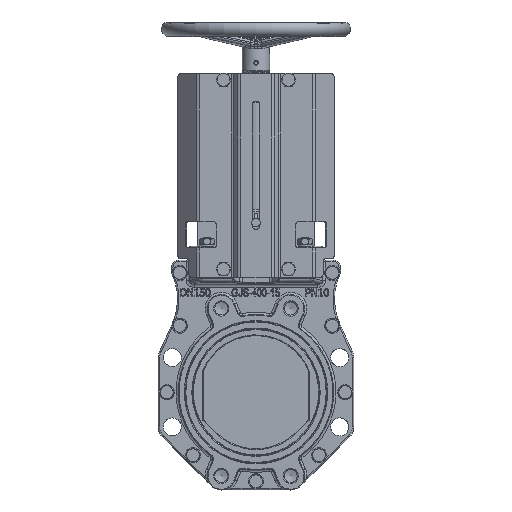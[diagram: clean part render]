
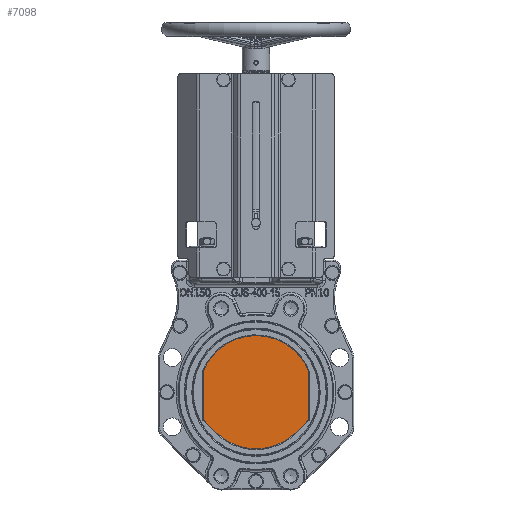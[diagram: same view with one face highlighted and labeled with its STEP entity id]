
A CAD part, top view. The second image highlights one B-rep face of the part: STEP entity #7098.
In plain terms, the highlighted planar face has unit normal (0, 0, 1).
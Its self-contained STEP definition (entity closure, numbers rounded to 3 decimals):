
#4832=CIRCLE('',#43678,2.);
#4834=CIRCLE('',#43682,2.);
#4836=CIRCLE('',#43686,75.);
#4838=CIRCLE('',#43690,2.);
#4840=CIRCLE('',#43694,2.);
#4842=CIRCLE('',#43697,75.);
#7098=ADVANCED_FACE('',(#10777),#9134,.T.);
#9134=PLANE('',#44649);
#10777=FACE_OUTER_BOUND('',#13190,.T.);
#13190=EDGE_LOOP('',(#19835,#19836,#19837,#19838,#19839,#19840,#19841,#19842,
#19843,#19844));
#19835=ORIENTED_EDGE('',*,*,#32071,.F.);
#19836=ORIENTED_EDGE('',*,*,#32098,.F.);
#19837=ORIENTED_EDGE('',*,*,#32095,.F.);
#19838=ORIENTED_EDGE('',*,*,#32092,.F.);
#19839=ORIENTED_EDGE('',*,*,#32089,.F.);
#19840=ORIENTED_EDGE('',*,*,#32086,.F.);
#19841=ORIENTED_EDGE('',*,*,#32083,.F.);
#19842=ORIENTED_EDGE('',*,*,#32080,.F.);
#19843=ORIENTED_EDGE('',*,*,#32077,.F.);
#19844=ORIENTED_EDGE('',*,*,#32074,.F.);
#28117=VERTEX_POINT('',#59264);
#28118=VERTEX_POINT('',#59266);
#28120=VERTEX_POINT('',#59272);
#28122=VERTEX_POINT('',#59278);
#28124=VERTEX_POINT('',#59284);
#28126=VERTEX_POINT('',#59290);
#28128=VERTEX_POINT('',#59296);
#28130=VERTEX_POINT('',#59302);
#28132=VERTEX_POINT('',#59308);
#28134=VERTEX_POINT('',#59314);
#32071=EDGE_CURVE('',#28117,#28118,#4832,.T.);
#32074=EDGE_CURVE('',#28118,#28120,#37903,.T.);
#32077=EDGE_CURVE('',#28120,#28122,#4834,.T.);
#32080=EDGE_CURVE('',#28122,#28124,#37907,.T.);
#32083=EDGE_CURVE('',#28124,#28126,#4836,.T.);
#32086=EDGE_CURVE('',#28126,#28128,#37911,.T.);
#32089=EDGE_CURVE('',#28128,#28130,#4838,.T.);
#32092=EDGE_CURVE('',#28130,#28132,#37915,.T.);
#32095=EDGE_CURVE('',#28132,#28134,#4840,.T.);
#32098=EDGE_CURVE('',#28134,#28117,#4842,.T.);
#37903=LINE('',#59271,#40751);
#37907=LINE('',#59283,#40755);
#37911=LINE('',#59295,#40759);
#37915=LINE('',#59307,#40763);
#40751=VECTOR('',#47677,1.);
#40755=VECTOR('',#47689,1.);
#40759=VECTOR('',#47701,1.);
#40763=VECTOR('',#47713,1.);
#43678=AXIS2_PLACEMENT_3D('',#59265,#47670,#47671);
#43682=AXIS2_PLACEMENT_3D('',#59277,#47682,#47683);
#43686=AXIS2_PLACEMENT_3D('',#59289,#47694,#47695);
#43690=AXIS2_PLACEMENT_3D('',#59301,#47706,#47707);
#43694=AXIS2_PLACEMENT_3D('',#59313,#47718,#47719);
#43697=AXIS2_PLACEMENT_3D('',#59319,#47725,#47726);
#44649=AXIS2_PLACEMENT_3D('',#67209,#50584,#50585);
#47670=DIRECTION('',(0.,0.,-1.));
#47671=DIRECTION('',(1.,0.,0.));
#47677=DIRECTION('',(0.,-1.,0.));
#47682=DIRECTION('',(0.,0.,-1.));
#47683=DIRECTION('',(1.,0.,0.));
#47689=DIRECTION('',(-0.707,-0.707,0.));
#47694=DIRECTION('',(0.,0.,-1.));
#47695=DIRECTION('',(1.,0.,0.));
#47701=DIRECTION('',(-0.707,0.707,0.));
#47706=DIRECTION('',(0.,0.,-1.));
#47707=DIRECTION('',(1.,0.,0.));
#47713=DIRECTION('',(0.,1.,0.));
#47718=DIRECTION('',(0.,0.,-1.));
#47719=DIRECTION('',(1.,0.,0.));
#47725=DIRECTION('',(0.,0.,-1.));
#47726=DIRECTION('',(1.,0.,0.));
#50584=DIRECTION('',(0.,0.,1.));
#50585=DIRECTION('',(1.,0.,0.));
#59264=CARTESIAN_POINT('',(69.863,27.279,3.));
#59265=CARTESIAN_POINT('',(68.,26.552,3.));
#59266=CARTESIAN_POINT('',(70.,26.552,3.));
#59271=CARTESIAN_POINT('',(70.,-36.066,3.));
#59272=CARTESIAN_POINT('',(70.,-35.238,3.));
#59277=CARTESIAN_POINT('',(68.,-35.238,3.));
#59278=CARTESIAN_POINT('',(69.414,-36.652,3.));
#59283=CARTESIAN_POINT('',(53.033,-53.033,3.));
#59284=CARTESIAN_POINT('',(53.033,-53.033,3.));
#59289=CARTESIAN_POINT('',(0.,0.,3.));
#59290=CARTESIAN_POINT('',(-53.033,-53.033,3.));
#59295=CARTESIAN_POINT('',(-70.,-36.066,3.));
#59296=CARTESIAN_POINT('',(-69.414,-36.652,3.));
#59301=CARTESIAN_POINT('',(-68.,-35.238,3.));
#59302=CARTESIAN_POINT('',(-70.,-35.238,3.));
#59307=CARTESIAN_POINT('',(-70.,26.926,3.));
#59308=CARTESIAN_POINT('',(-70.,26.552,3.));
#59313=CARTESIAN_POINT('',(-68.,26.552,3.));
#59314=CARTESIAN_POINT('',(-69.863,27.279,3.));
#59319=CARTESIAN_POINT('',(0.,0.,3.));
#67209=CARTESIAN_POINT('',(36.634,89.109,3.));
